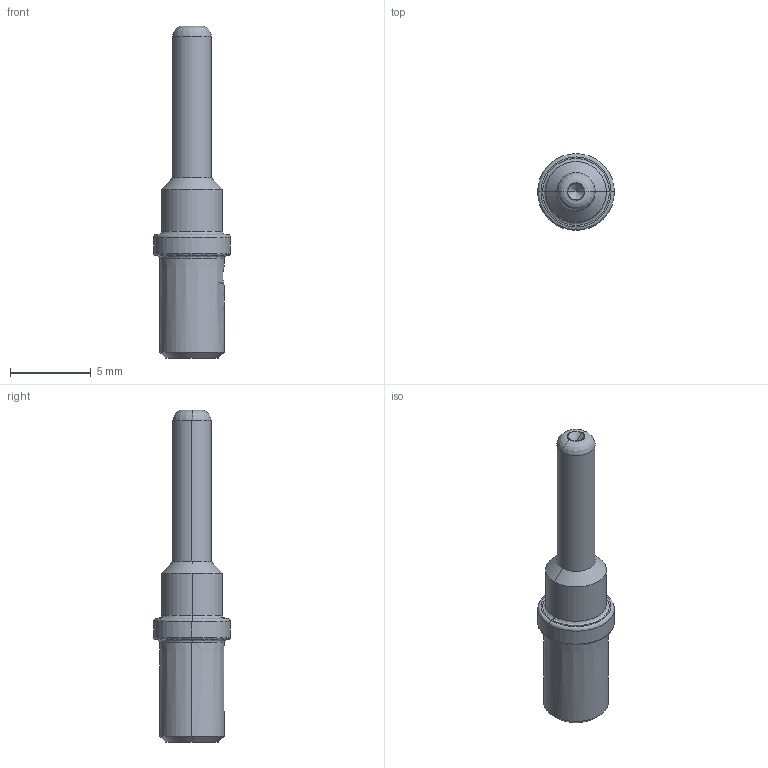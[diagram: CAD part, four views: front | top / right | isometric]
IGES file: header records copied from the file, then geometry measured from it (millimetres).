
Start section:  PTC IGES file: c-0460-204-12141-99-3d.igs
Global section: file name: c-0460-204-12141-99-3d.igs; native system: Pro/ENGINEER by Parametric Technology Corporation; preprocessor: 2011490; author: workeradm; organization: Unknown; units: millimetre
Bounding box: 4.75 x 4.75 x 20.57 mm (x, y, z)
Surface area: 244.4 mm2 (no closed solid volume)
Topology: 0 solids, 0 shells, 34 faces, 140 edges, 138 vertices
Faces by surface type: revolution 28, bspline 6
